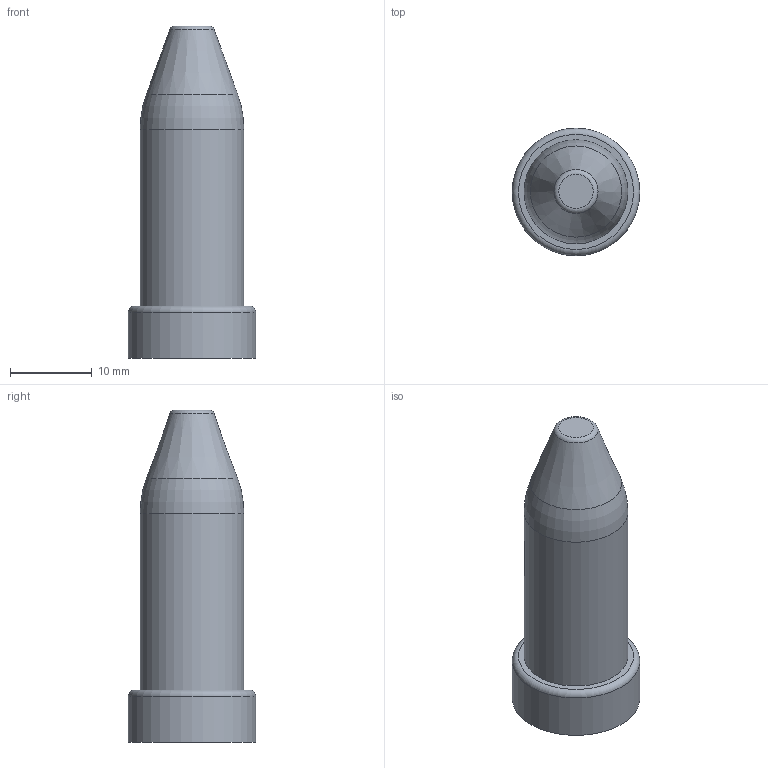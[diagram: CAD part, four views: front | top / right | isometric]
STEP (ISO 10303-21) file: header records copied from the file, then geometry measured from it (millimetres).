
FILE_DESCRIPTION (( 'STEP AP214' ), '1' );
FILE_NAME ('P-.500-.100-1.000.STEP', '2023-11-07T11:00:37', ( '' ), ( '' ), 'SwSTEP 2.0', 'SolidWorks 2020', '' );
FILE_SCHEMA (( 'AUTOMOTIVE_DESIGN' ));
Length unit declared in the file: inch
Products named in the file (1): P-.500-.100-1.000
Bounding box: 15.62 x 15.62 x 40.64 mm (x, y, z)
Volume: 4908 mm3; surface area: 1828.6 mm2
Topology: 1 solids, 1 shells, 9 faces, 14 edges, 8 vertices
Faces by surface type: plane 3, torus 3, cylinder 2, cone 1
Full cylindrical faces by diameter (mm): 12.7 x1, 15.621 x1
Entity records: 214 total; most frequent: DIRECTION 36, CARTESIAN_POINT 26, AXIS2_PLACEMENT_3D 18, EDGE_LOOP 16, ORIENTED_EDGE 16, FACE_OUTER_BOUND 14, ADVANCED_FACE 9, CIRCLE 8
